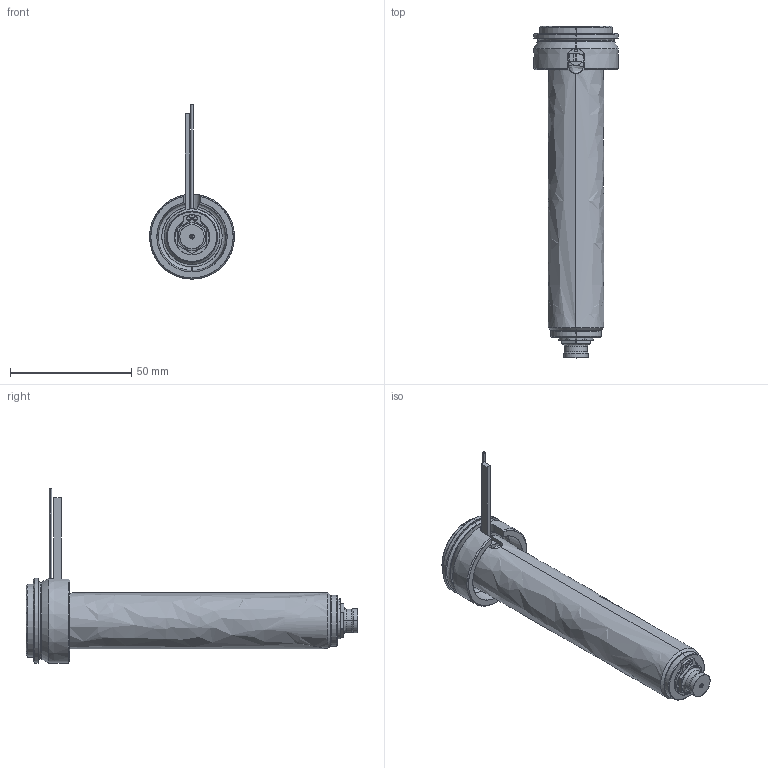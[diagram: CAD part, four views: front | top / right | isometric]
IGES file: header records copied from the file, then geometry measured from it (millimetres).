
Start section: SolidWorks IGES file using analytic representation for surfaces
Global section: file name: C:\Documents and Settings\ws-20\Desktop\TEM\UGEP3153-M-A-1 [Øf-0.70 P-0 ØC-7.0].IGS; native system: SolidWorks 2012; preprocessor: SolidWorks 2012; author: ws-20; date: 120404.082254; units: millimetre
Bounding box: 35 x 137 x 71.9 mm (x, y, z)
Surface area: 27266.6 mm2 (no closed solid volume)
Topology: 0 solids, 0 shells, 119 faces, 1696 edges, 1696 vertices
Faces by surface type: revolution 71, bspline 48
